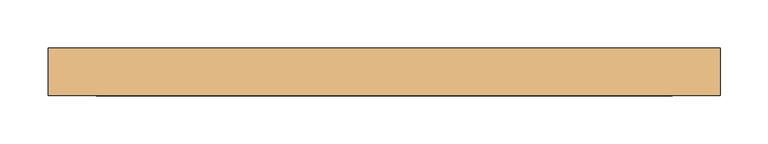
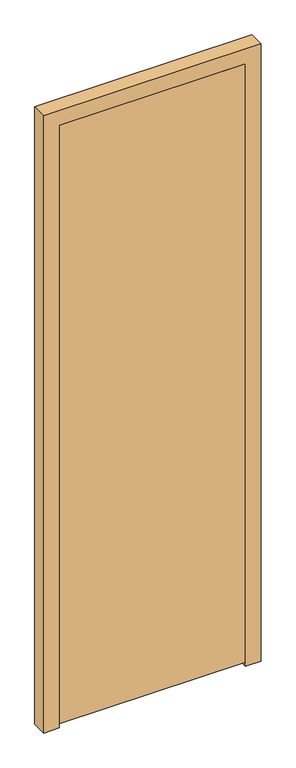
"""IFC4 building model written with IfcOpenShell, lengths in millimetres: door geometry, Dr_Дверь_v2.1 : ДНСГУТД Оп Прг 21-7 Л Тех EIS60."""

from ifc_helpers import new_model, si_unit, frame, origin, place, context, project, spatial, polyline, outline, extrude, source, transform, mapped, element, save


def door_cc456c7b(model_context):
    return source(origin(), model_context, "Body", "SweptSolid", [
        extrude(outline(polyline([(0.0, -225.0), (0.0, -175.0), (2050.0, -175.0), (2050.0, 425.0), (0.0, 425.0), (0.0, 475.0), (2100.0, 475.0), (2100.0, -225.0), (0.0, -225.0)])), frame((0.0, -75.0, 0.0), z_axis=(0.0, 1.0, 0.0), x_axis=(0.0, 0.0, 1.0)), (0.0, 0.0, 1.0), 50.0),
        extrude(outline(polyline([(425.0, -45.0), (425.0, -75.0), (-175.0, -75.0), (-175.0, -45.0), (425.0, -45.0)])), frame((0.0, 0.0, 14.0), z_axis=(0.0, 0.0, 1.0), x_axis=(1.0, 0.0, 0.0)), (0.0, 0.0, 1.0), 2036.0),
    ])


if __name__ == "__main__":
    model = new_model("IFC4")
    model_context = context("Model", 3, world=origin())
    ifc_project = project(units=[si_unit("LENGTHUNIT", "METRE", prefix="MILLI")], contexts=[model_context])
    site = spatial("IfcSite", under=ifc_project)
    building = spatial("IfcBuilding", under=site)
    placement = place(None, origin())
    door_shape = door_cc456c7b(model_context)
    element("IfcDoor", 1, ObjectType="Dr_Дверь_v2.1 : ДНСГУТД Оп Прг 21-7 Л Тех EIS60", at=placement, inside=building, context=model_context, shape_type="MappedRepresentation", body=[
        mapped(door_shape, transform((0.0, 0.0, 0.0), x_axis=(1.0, 0.0, 0.0), y_axis=(0.0, 1.0, 0.0), z_axis=(0.0, 0.0, 1.0))),
    ])
    save(model, "model.ifc")
